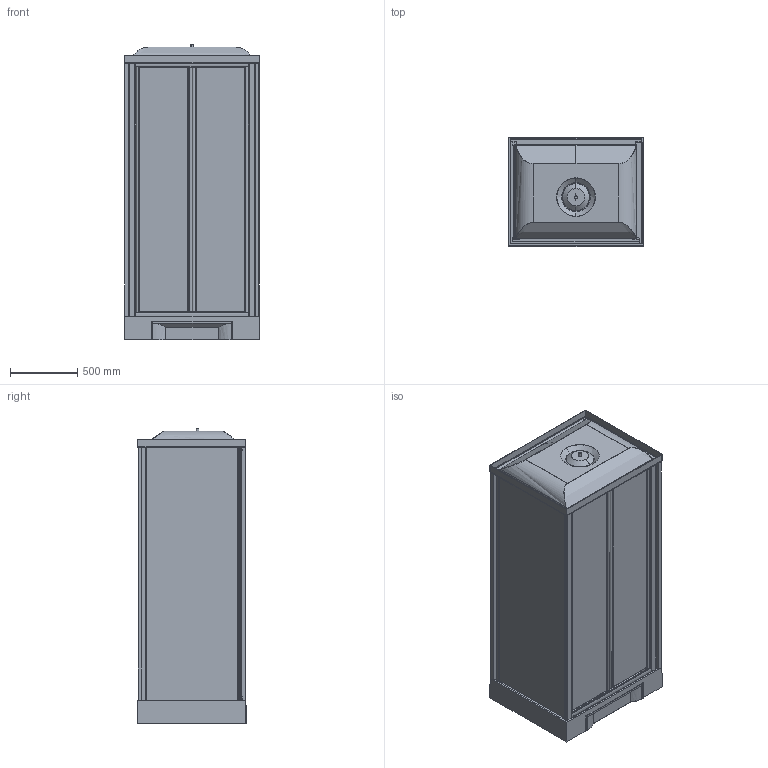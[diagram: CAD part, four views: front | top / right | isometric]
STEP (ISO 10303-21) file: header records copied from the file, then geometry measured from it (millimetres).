
FILE_DESCRIPTION(('STEP AP203'),'2;1');
FILE_NAME('NNH S 100 T 19 F.stp','2015-09-04T14:35:49',(''),(''),'2014.1.117','THINKDESIGN','');
FILE_SCHEMA(('CONFIG_CONTROL_DESIGN'));
Length unit declared in the file: millimetre
Products named in the file (1): top
Bounding box: 1004.04 x 807.53 x 2192.4 mm (x, y, z)
Volume: 228017252.7 mm3; surface area: 20875982.9 mm2
Topology: 37 solids, 37 shells, 738 faces, 1871 edges, 1226 vertices
Faces by surface type: bspline 359, plane 290, cylinder 89
Entity records: 66607 total; most frequent: CARTESIAN_POINT 51584, ORIENTED_EDGE 3550, DIRECTION 2108, EDGE_CURVE 1775, VERTEX_POINT 1153, VECTOR 818, LINE 818, EDGE_LOOP 756
